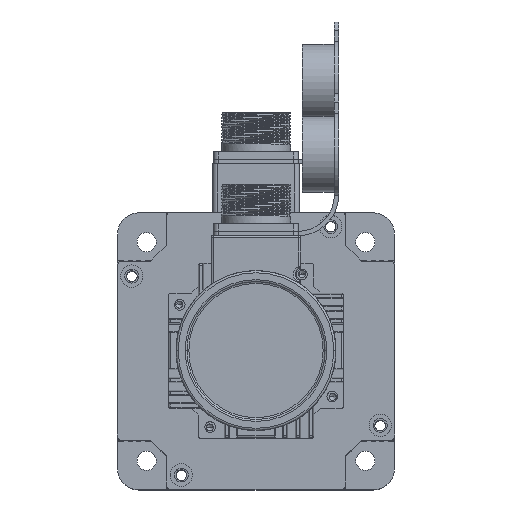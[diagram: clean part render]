
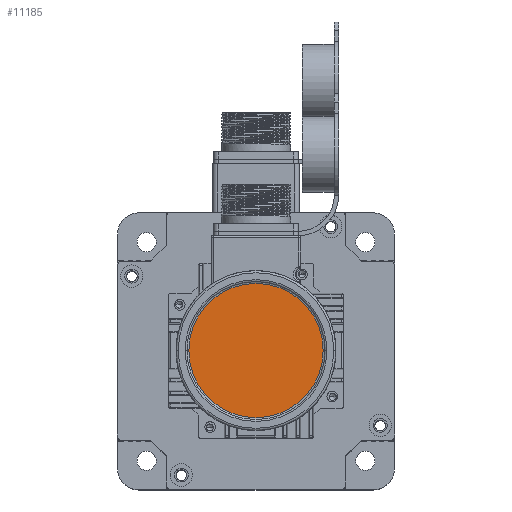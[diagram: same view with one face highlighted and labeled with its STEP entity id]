
A CAD part, top view. The second image highlights one B-rep face of the part: STEP entity #11185.
In plain terms, the highlighted planar face has unit normal (0, 0, 1) as drawn and (0, 0, -1) by its records, which use the part's own axes.
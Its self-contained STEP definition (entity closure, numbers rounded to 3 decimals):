
#1001 = CIRCLE ( 'NONE', #24739, 31.5 ) ;
#2603 = CARTESIAN_POINT ( 'NONE',  ( -31.5, 0., -41.5 ) ) ;
#2884 = DIRECTION ( 'NONE',  ( 0., 0., -1. ) ) ;
#7620 = CARTESIAN_POINT ( 'NONE',  ( 31.5, 0., -41.5 ) ) ;
#8785 = DIRECTION ( 'NONE',  ( 0., 0., -1. ) ) ;
#8904 = ORIENTED_EDGE ( 'NONE', *, *, #44123, .T. ) ;
#10889 = AXIS2_PLACEMENT_3D ( 'NONE', #29781, #8785, #33275 ) ;
#11185 = ADVANCED_FACE ( 'NONE', ( #21464 ), #18248, .T. ) ;
#14051 = EDGE_LOOP ( 'NONE', ( #34859, #8904 ) ) ;
#18232 = AXIS2_PLACEMENT_3D ( 'NONE', #35687, #42516, #42670 ) ;
#18248 = PLANE ( 'NONE',  #18232 ) ;
#21308 = EDGE_CURVE ( 'NONE', #26517, #32415, #1001, .T. ) ;
#21464 = FACE_OUTER_BOUND ( 'NONE', #14051, .T. ) ;
#23826 = CARTESIAN_POINT ( 'NONE',  ( 0., 0., -41.5 ) ) ;
#24288 = CIRCLE ( 'NONE', #10889, 31.5 ) ;
#24739 = AXIS2_PLACEMENT_3D ( 'NONE', #23826, #2884, #27313 ) ;
#26517 = VERTEX_POINT ( 'NONE', #2603 ) ;
#27313 = DIRECTION ( 'NONE',  ( -1., 0., 0. ) ) ;
#29781 = CARTESIAN_POINT ( 'NONE',  ( 0., 0., -41.5 ) ) ;
#32415 = VERTEX_POINT ( 'NONE', #7620 ) ;
#33275 = DIRECTION ( 'NONE',  ( -1., 0., 0. ) ) ;
#34859 = ORIENTED_EDGE ( 'NONE', *, *, #21308, .T. ) ;
#35687 = CARTESIAN_POINT ( 'NONE',  ( 0., 0., -41.5 ) ) ;
#42516 = DIRECTION ( 'NONE',  ( 0., 0., -1. ) ) ;
#42670 = DIRECTION ( 'NONE',  ( -1., 0., 0. ) ) ;
#44123 = EDGE_CURVE ( 'NONE', #32415, #26517, #24288, .T. ) ;
